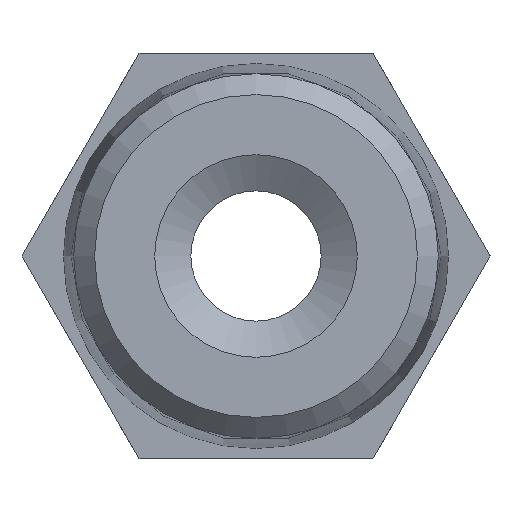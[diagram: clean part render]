
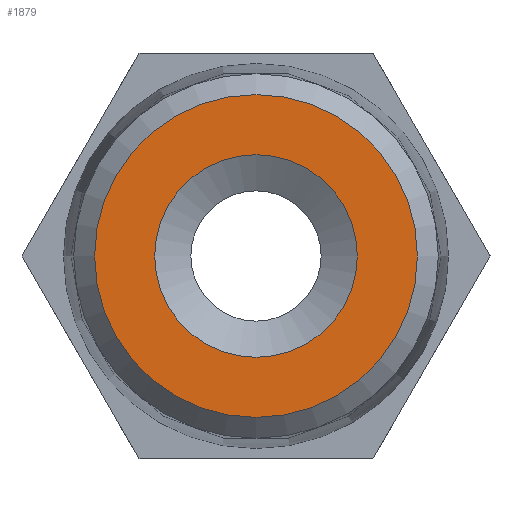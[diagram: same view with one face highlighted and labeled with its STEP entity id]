
A CAD part, front view. The second image highlights one B-rep face of the part: STEP entity #1879.
In plain terms, the highlighted planar face has unit normal (0, -1, 0).
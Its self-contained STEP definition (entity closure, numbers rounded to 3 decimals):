
#1725=CARTESIAN_POINT('',(3.5,0.,0.0));
#1726=VERTEX_POINT('',#1725);
#1727=CARTESIAN_POINT('',(0.,0.,0.0));
#1728=DIRECTION('',(0.,1.0,0.0));
#1729=DIRECTION('',(1.0,0.,0.0));
#1730=AXIS2_PLACEMENT_3D('',#1727,#1728,#1729);
#1731=CIRCLE('',#1730,3.5);
#1732=EDGE_CURVE('',#1726,#1726,#1731,.T.);
#1860=CARTESIAN_POINT('',(2.787,0.0,0.0));
#1861=DIRECTION('',(0.,-1.0,0.0));
#1862=DIRECTION('',(0.0,0.0,-1.0));
#1863=AXIS2_PLACEMENT_3D('',#1860,#1861,#1862);
#1864=PLANE('',#1863);
#1865=CARTESIAN_POINT('',(5.575,0.0,0.0));
#1866=VERTEX_POINT('',#1865);
#1867=CARTESIAN_POINT('',(0.,0.,0.0));
#1868=DIRECTION('',(0.,-1.0,0.0));
#1869=DIRECTION('',(1.0,0.,0.0));
#1870=AXIS2_PLACEMENT_3D('',#1867,#1868,#1869);
#1871=CIRCLE('',#1870,5.575);
#1872=EDGE_CURVE('',#1866,#1866,#1871,.T.);
#1873=ORIENTED_EDGE('',*,*,#1872,.T.);
#1874=EDGE_LOOP('',(#1873));
#1875=FACE_OUTER_BOUND('',#1874,.T.);
#1876=ORIENTED_EDGE('',*,*,#1732,.T.);
#1877=EDGE_LOOP('',(#1876));
#1878=FACE_BOUND('',#1877,.T.);
#1879=ADVANCED_FACE('',(#1875,#1878),#1864,.T.);
